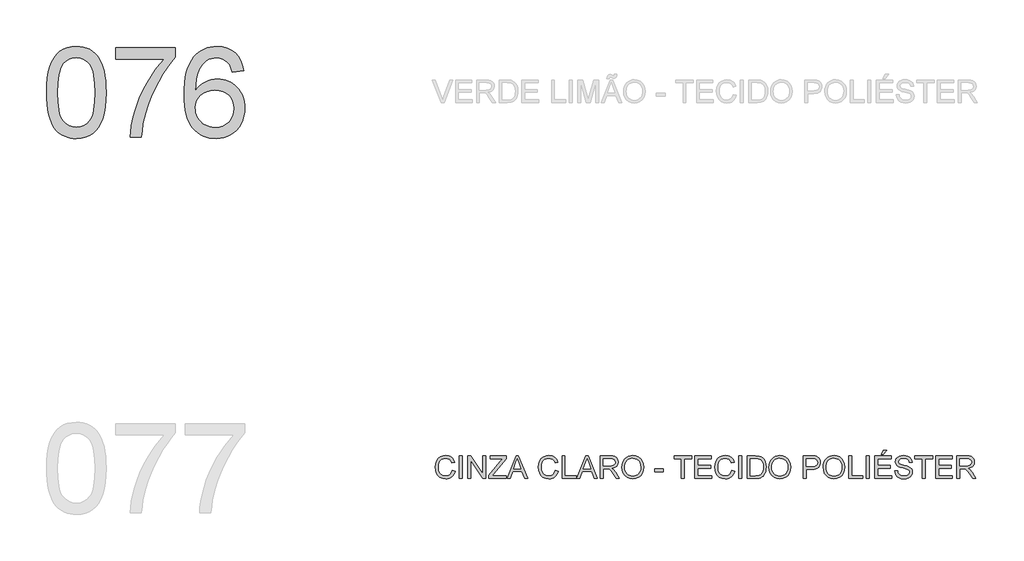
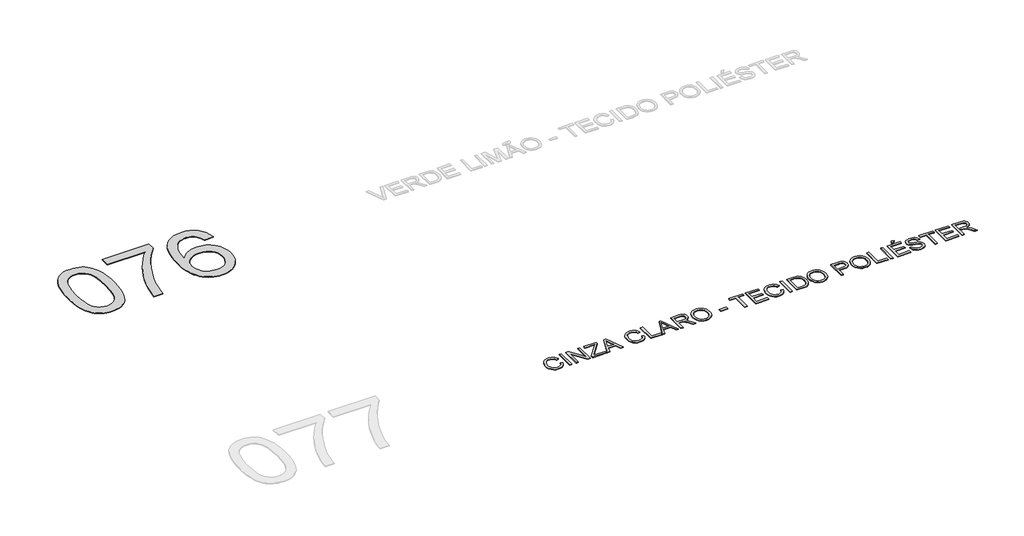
# One storey, part 6 of 35: 2 proxies.
"""IFC4 building model written with IfcOpenShell, lengths in millimetres."""

from ifc_helpers import new_model, si_unit, origin, origin_with_axes, place, context, project, spatial, polyline, outline, extrude, element, save

model = new_model("IFC4")

# Units and contexts
model_context = context("Model", 3, world=origin())
ifc_project = project(units=[si_unit("LENGTHUNIT", "METRE", prefix="MILLI")], contexts=[model_context])

# Site, building, storey
site = spatial("IfcSite", under=ifc_project)
building = spatial("IfcBuilding", under=site)
storey = spatial("IfcBuildingStorey", under=building, Name="Marelli - Linha YOU - Planta Baixa", Elevation=0.0)

# Proxies
placement = place(None, origin())
element("IfcBuildingElementProxy", 1, Name="1200mm Arial", ObjectType="1200mm Arial", at=placement, inside=storey, context=model_context, shape_type="SweptSolid", body=[
    extrude(outline(polyline([(-25181.1313792, -109895.792664), (-25178.3630672, -109794.4319773), (-25170.0581311, -109702.8385576), (-25156.2165711, -109621.0124048), (-25136.838387, -109548.953519), (-25112.0063523, -109486.073289), (-25081.8032405, -109431.7831035), (-25046.2290516, -109386.0829627), (-25005.2837855, -109348.9728664), (-24958.8294866, -109320.2596767), (-24906.728199, -109299.7502555), (-24848.9799228, -109287.4446027), (-24785.584658, -109283.3427185), (-24737.9439396, -109285.7707396), (-24692.7312424, -109293.0548031), (-24649.9465664, -109305.194909), (-24609.5899115, -109322.1910572), (-24572.6361651, -109343.7581391), (-24540.0602144, -109369.6110463), (-24511.8620595, -109399.7497788), (-24488.0417003, -109434.1743365), (-24467.4035204, -109472.7467637), (-24448.7519032, -109515.3291046), (-24417.4083572, -109612.5235278), (-24405.4337983, -109669.6831928), (-24396.8805419, -109735.9479371), (-24391.7485881, -109811.3177609), (-24390.0379368, -109895.792664), (-24392.7786576, -109996.5095573), (-24401.0008202, -110087.6431245), (-24414.7044246, -110169.1933658), (-24433.8894706, -110241.1602811), (-24458.5283672, -110304.0681023), (-24488.5935233, -110358.4410612), (-24524.0849388, -110404.2791578), (-24565.0026137, -110441.5823921), (-24611.5120949, -110470.4887199), (-24663.7789294, -110491.1360968), (-24721.8031171, -110503.524523), (-24785.584658, -110507.6539984), (-24828.2589694, -110505.8605737), (-24868.5788361, -110500.4802995), (-24906.544258, -110491.5131759), (-24942.1552351, -110478.9592028), (-24975.4117675, -110462.8183803), (-25006.3138551, -110443.0907083), (-25034.8614979, -110419.7761868), (-25061.054696, -110392.8748159), (-25089.1976686, -110350.2786794), (-25113.5882449, -110302.0999336), (-25134.2264248, -110248.3385785), (-25151.1122084, -110188.9946142), (-25164.2455956, -110124.0680406), (-25173.6265865, -110053.5588577), (-25179.255181, -109977.4670655), (-25181.1313792, -109895.792664)]), holes=[polyline([(-25030.446914, -109895.4983584), (-25026.03233, -110026.4919399), (-25012.7885782, -110132.5247279), (-25002.8557643, -110176.1808245), (-24990.7156585, -110213.5967226), (-24976.3682607, -110244.7724225), (-24959.8135709, -110269.7079239), (-24922.4367602, -110307.884878), (-24880.9396711, -110335.1541309), (-24835.3223037, -110351.5156826), (-24785.584658, -110356.9695332), (-24735.8470122, -110351.4972885), (-24690.2296448, -110335.0805545), (-24648.7325558, -110307.7193311), (-24611.3557451, -110269.4136183), (-24594.8010553, -110244.418336), (-24580.4536575, -110213.2104465), (-24568.3135516, -110175.7899498), (-24558.3807378, -110132.1568459), (-24545.1369859, -110026.2528166), (-24540.722402, -109895.4983584), (-24544.9898331, -109767.9720648), (-24557.7921266, -109663.8062779), (-24567.3938467, -109620.4835744), (-24579.1292823, -109583.0009976), (-24592.9984335, -109551.3585475), (-24609.0013003, -109525.5562241), (-24645.7527116, -109485.5122689), (-24687.7280473, -109456.9094438), (-24734.9273073, -109439.7477487), (-24787.3504916, -109434.0271837), (-24836.8306199, -109439.067167), (-24881.6754351, -109454.187117), (-24921.8849372, -109479.3870337), (-24957.4591261, -109514.666917), (-24974.5656389, -109543.2145599), (-24989.3912833, -109577.2068562), (-25001.9360594, -109616.6438061), (-25012.199967, -109661.5254095), (-25025.8851772, -109767.6225769), (-25030.446914, -109895.4983584)])]), origin_with_axes(), (0.0, 0.0, 1.0), 10.0),
    extrude(outline(polyline([(-24258.1890297, -109452.8627418), (-24258.1890297, -109302.1782766), (-23467.0955873, -109302.1782766), (-23467.0955873, -109424.0207934), (-23523.6114588, -109490.5246611), (-23579.8514188, -109566.7222194), (-23635.8154673, -109652.6134682), (-23691.5036043, -109748.1984076), (-23743.8991975, -109849.3383651), (-23789.9856144, -109951.8946683), (-23829.7628552, -110055.8673172), (-23863.2309197, -110161.2563118), (-23883.1701238, -110237.7941609), (-23899.1362024, -110317.9004653), (-23911.1291555, -110401.5752251), (-23919.1489829, -110488.8184403), (-24069.8334482, -110488.8184403), (-24065.0969675, -110414.8189769), (-24053.5362758, -110333.4986619), (-24035.1513731, -110244.8574952), (-24009.9422594, -110148.8954767), (-23978.2032402, -110050.1651463), (-23940.2286213, -109953.2190435), (-23896.0184025, -109858.0571684), (-23845.5725839, -109764.679521), (-23791.1628368, -109675.8268221), (-23735.0608326, -109594.2397926), (-23677.2665711, -109519.9184325), (-23617.7800525, -109452.8627418), (-24258.1890297, -109452.8627418)])), origin_with_axes(), (0.0, 0.0, 1.0), 10.0),
    extrude(outline(polyline([(-22562.9887959, -109603.5472071), (-22713.6732612, -109622.3827652), (-22724.7465092, -109582.0812927), (-22737.9534728, -109547.7027202), (-22753.294152, -109519.2470479), (-22770.7685468, -109496.7142757), (-22803.1605565, -109469.2886729), (-22839.1210215, -109449.6989567), (-22878.6499419, -109437.9451269), (-22921.7473176, -109434.0271837), (-22957.2847184, -109436.3080521), (-22991.7920495, -109443.1506572), (-23025.2693111, -109454.554999), (-23057.716503, -109470.5210776), (-23087.3218066, -109496.6315022), (-23114.3335421, -109528.1681863), (-23138.7517095, -109565.1311297), (-23160.5763089, -109607.5203326), (-23178.6485119, -109658.1316981), (-23191.8094903, -109719.7611293), (-23200.059244, -109792.4086263), (-23203.3977731, -109876.0741891), (-23174.6753864, -109838.2099347), (-23142.9547613, -109805.5512106), (-23108.235898, -109778.0980167), (-23070.5187965, -109755.8503531), (-23030.8151321, -109738.6610669), (-22990.1365805, -109726.3830053), (-22948.4831416, -109719.0161683), (-22905.8548154, -109716.560556), (-22868.9562513, -109718.2390176), (-22833.4556388, -109723.2744024), (-22799.3529778, -109731.6667104), (-22766.6482685, -109743.4159416), (-22735.3415107, -109758.5220961), (-22705.4327045, -109776.9851737), (-22676.9218498, -109798.8051745), (-22649.8089468, -109823.9820986), (-22625.04589, -109851.81697), (-22603.5845741, -109881.6108131), (-22585.4249991, -109913.3636278), (-22570.567165, -109947.0754142), (-22559.0110719, -109982.7461721), (-22550.7567196, -110020.3759017), (-22545.8041082, -110059.9646029), (-22544.1532378, -110101.5122757), (-22547.2618406, -110156.4462547), (-22556.5876492, -110209.4120649), (-22572.1306635, -110260.4097065), (-22593.8908835, -110309.4391794), (-22621.0957571, -110354.6702707), (-22652.9727319, -110394.2727675), (-22689.5218082, -110428.2466698), (-22730.7429857, -110456.5919775), (-22775.7533478, -110478.9316116), (-22823.6699777, -110494.8884932), (-22874.4928753, -110504.4626221), (-22928.2220407, -110507.6539984), (-22974.223385, -110505.5386769), (-23018.0496269, -110499.1927125), (-23059.7007666, -110488.6161052), (-23099.1768039, -110473.8088549), (-23136.4777389, -110454.7709616), (-23171.6035717, -110431.5024254), (-23204.5543022, -110404.0032463), (-23235.3299303, -110372.2734242), (-23263.1625025, -110335.6875598), (-23287.2840651, -110293.6202536), (-23307.694618, -110246.0715057), (-23324.3941613, -110193.0413161), (-23337.382695, -110134.5296848), (-23346.6602191, -110070.5366117), (-23352.2267335, -110001.062097), (-23354.0822384, -109926.1061404), (-23352.0220992, -109842.1784618), (-23345.8416817, -109764.1828803), (-23335.5409858, -109692.1193959), (-23321.1200116, -109625.9880088), (-23302.578759, -109565.7887188), (-23279.9172281, -109511.521526), (-23253.1354189, -109463.1864303), (-23222.2333313, -109420.7834319), (-23192.218759, -109388.5707647), (-23159.7117862, -109360.6531198), (-23124.7124129, -109337.0304971), (-23087.2206391, -109317.7028968), (-23047.2364647, -109302.6703188), (-23004.7598898, -109291.9327631), (-22959.7909145, -109285.4902296), (-22912.3295385, -109283.3427185), (-22842.9286002, -109288.6586133), (-22780.1127495, -109304.6062978), (-22723.8819865, -109331.1857719), (-22674.2363113, -109368.3970358), (-22632.518493, -109414.9892904), (-22600.071301, -109469.7117372), (-22576.8947353, -109532.5643761), (-22562.9887959, -109603.5472071)]), holes=[polyline([(-23203.3977731, -110099.157831), (-23201.2180723, -110132.9202011), (-23194.6789698, -110165.9284131), (-23183.7804657, -110198.182467), (-23168.52256, -110229.6823629), (-23149.6502136, -110258.9473756), (-23127.9083877, -110284.4967801), (-23103.2970822, -110306.3305766), (-23075.8162972, -110324.4487648), (-23045.6407766, -110338.676601), (-23012.9452642, -110348.8393411), (-22977.7297602, -110354.9369852), (-22939.9942646, -110356.9695332), (-22887.6170655, -110352.7572843), (-22840.5557613, -110340.1205378), (-22798.8103519, -110319.0592936), (-22762.3808373, -110289.5735517), (-22732.8307161, -110252.8589286), (-22711.7234866, -110210.1110407), (-22699.0591489, -110161.3298882), (-22694.837703, -110106.5154709), (-22699.0039666, -110053.8439662), (-22711.5027574, -110007.0769676), (-22732.3340754, -109966.214475), (-22761.4979205, -109931.2564884), (-22798.0377997, -109903.2514715), (-22840.9972197, -109883.247888), (-22890.3761805, -109871.2457379), (-22946.1746821, -109867.2450212), (-22997.8529054, -109871.2457379), (-23045.4660326, -109883.247888), (-23089.0140638, -109903.2514715), (-23128.4969989, -109931.2564884), (-23161.2660876, -109965.7546225), (-23184.6725796, -110005.2375576), (-23198.7164747, -110049.7052938), (-23203.3977731, -110099.157831)])]), origin_with_axes(), (0.0, 0.0, 1.0), 10.0),
])
element("IfcBuildingElementProxy", 2, Name="300mm Arial", ObjectType="300mm Arial", at=placement, inside=storey, context=model_context, shape_type="SweptSolid", body=[
    extrude(outline(polyline([(-19788.3594476, -114923.4390831), (-19750.6883313, -114933.1511677), (-19758.1425402, -114956.5783531), (-19768.0707555, -114977.0486868), (-19780.4729773, -114994.5621691), (-19795.3492055, -115009.1187997), (-19812.3637478, -115020.5622291), (-19831.1809118, -115028.7361071), (-19851.8006976, -115033.640434), (-19874.2231053, -115035.2752096), (-19917.9182892, -115030.3271968), (-19952.6187584, -115015.4831583), (-19979.2166267, -114991.2581289), (-19998.6040078, -114958.1671434), (-20010.440611, -114919.2636224), (-20014.3861454, -114877.6009865), (-20009.9255762, -114833.6574822), (-19996.5438686, -114795.7104543), (-19974.9399985, -114764.9647166), (-19945.8129415, -114742.6250824), (-19911.2688222, -114729.0226457), (-19873.4137649, -114724.4885001), (-19832.1098139, -114730.3562179), (-19814.1410777, -114737.6908652), (-19797.9611677, -114747.9593714), (-19783.8367983, -114760.8904235), (-19772.034684, -114776.2127086), (-19755.3972208, -114814.0309777), (-19793.0683371, -114823.0072984), (-19806.1281479, -114795.5357104), (-19823.9704247, -114776.6909552), (-19846.8158966, -114765.7924511), (-19874.8852928, -114762.1596164), (-19907.2405143, -114766.1879242), (-19933.8199885, -114778.2728478), (-19953.9891189, -114797.1451941), (-19967.113309, -114821.5357704), (-19974.3145991, -114849.1085259), (-19976.7150291, -114877.5274101), (-19973.8731407, -114912.3290468), (-19965.3474755, -114942.421794), (-19950.8161366, -114966.6560205), (-19929.9572275, -114983.8820949), (-19904.9504489, -114994.1735937), (-19877.9755016, -114997.6040933), (-19846.5307881, -114992.931992), (-19820.328393, -114978.9156879), (-19800.5455387, -114955.7023341), (-19788.3594476, -114923.4390831)])), origin_with_axes(), (0.0, 0.0, 1.0), 10.0),
    extrude(outline(polyline([(-19694.1816568, -115030.5663201), (-19694.1816568, -114729.1973896), (-19656.5105405, -114729.1973896), (-19656.5105405, -115030.5663201), (-19694.1816568, -115030.5663201)])), origin_with_axes(), (0.0, 0.0, 1.0), 10.0),
    extrude(outline(polyline([(-19581.1683079, -115030.5663201), (-19581.1683079, -114729.1973896), (-19540.8484412, -114729.1973896), (-19383.3949473, -114967.9528045), (-19383.3949473, -114729.1973896), (-19345.723831, -114729.1973896), (-19345.723831, -115030.5663201), (-19386.0436977, -115030.5663201), (-19543.4971916, -114791.7373288), (-19543.4971916, -115030.5663201), (-19581.1683079, -115030.5663201)])), origin_with_axes(), (0.0, 0.0, 1.0), 10.0),
    extrude(outline(polyline([(-19303.3438251, -115030.5663201), (-19303.3438251, -114991.4972522), (-19149.2012692, -114802.7737887), (-19119.9178623, -114766.8685059), (-19284.508267, -114766.8685059), (-19284.508267, -114729.1973896), (-19072.6082378, -114729.1973896), (-19072.6082378, -114766.8685059), (-19241.3189207, -114973.397458), (-19257.2114229, -114992.8952038), (-19067.8993482, -114992.8952038), (-19067.8993482, -115030.5663201), (-19303.3438251, -115030.5663201)])), origin_with_axes(), (0.0, 0.0, 1.0), 10.0),
    extrude(outline(polyline([(-19060.6152847, -115030.5663201), (-18940.3178723, -114729.1973896), (-18908.2385623, -114729.1973896), (-18787.9411499, -115030.5663201), (-18827.7459818, -115030.5663201), (-18862.2533129, -114936.3885293), (-18986.3766981, -114936.3885293), (-19020.8104528, -115030.5663201), (-19060.6152847, -115030.5663201)]), holes=[polyline([(-18972.5443351, -114898.717413), (-18876.0120995, -114898.717413), (-18903.1617908, -114824.6259792), (-18924.2782173, -114766.8685059), (-18943.0401991, -114818.1512561), (-18972.5443351, -114898.717413)])]), origin_with_axes(), (0.0, 0.0, 1.0), 10.0),
    extrude(outline(polyline([(-18418.0725919, -114923.4390831), (-18380.4014756, -114933.1511677), (-18387.8556846, -114956.5783531), (-18397.7838999, -114977.0486868), (-18410.1861217, -114994.5621691), (-18425.0623499, -115009.1187997), (-18442.0768921, -115020.5622291), (-18460.8940562, -115028.7361071), (-18481.513842, -115033.640434), (-18503.9362496, -115035.2752096), (-18547.6314336, -115030.3271968), (-18582.3319028, -115015.4831583), (-18608.929771, -114991.2581289), (-18628.3171522, -114958.1671434), (-18640.1537554, -114919.2636224), (-18644.0992898, -114877.6009865), (-18639.6387206, -114833.6574822), (-18626.257013, -114795.7104543), (-18604.6531428, -114764.9647166), (-18575.5260859, -114742.6250824), (-18540.9819665, -114729.0226457), (-18503.1269092, -114724.4885001), (-18461.8229582, -114730.3562179), (-18443.854222, -114737.6908652), (-18427.674312, -114747.9593714), (-18413.5499427, -114760.8904235), (-18401.7478284, -114776.2127086), (-18385.1103652, -114814.0309777), (-18422.7814815, -114823.0072984), (-18435.8412923, -114795.5357104), (-18453.6835691, -114776.6909552), (-18476.529041, -114765.7924511), (-18504.5984372, -114762.1596164), (-18536.9536587, -114766.1879242), (-18563.5331328, -114778.2728478), (-18583.7022632, -114797.1451941), (-18596.8264534, -114821.5357704), (-18604.0277435, -114849.1085259), (-18606.4281735, -114877.5274101), (-18603.5862851, -114912.3290468), (-18595.0606198, -114942.421794), (-18580.529281, -114966.6560205), (-18559.6703719, -114983.8820949), (-18534.6635933, -114994.1735937), (-18507.688646, -114997.6040933), (-18476.2439324, -114992.931992), (-18450.0415373, -114978.9156879), (-18430.258683, -114955.7023341), (-18418.0725919, -114923.4390831)])), origin_with_axes(), (0.0, 0.0, 1.0), 10.0),
    extrude(outline(polyline([(-18328.6036907, -115030.5663201), (-18328.6036907, -114729.1973896), (-18290.9325744, -114729.1973896), (-18290.9325744, -114992.8952038), (-18140.2481092, -114992.8952038), (-18140.2481092, -115030.5663201), (-18328.6036907, -115030.5663201)])), origin_with_axes(), (0.0, 0.0, 1.0), 10.0),
    extrude(outline(polyline([(-18132.9640457, -115030.5663201), (-18012.6666333, -114729.1973896), (-17980.5873233, -114729.1973896), (-17860.2899109, -115030.5663201), (-17900.0947427, -115030.5663201), (-17934.6020739, -114936.3885293), (-18058.7254591, -114936.3885293), (-18093.1592138, -115030.5663201), (-18132.9640457, -115030.5663201)]), holes=[polyline([(-18044.893096, -114898.717413), (-17948.3608605, -114898.717413), (-17975.5105517, -114824.6259792), (-17996.6269783, -114766.8685059), (-18015.38896, -114818.1512561), (-18044.893096, -114898.717413)])]), origin_with_axes(), (0.0, 0.0, 1.0), 10.0),
    extrude(outline(polyline([(-17820.0436206, -115030.5663201), (-17820.0436206, -114729.1973896), (-17690.1812763, -114729.1973896), (-17655.278472, -114731.2299376), (-17629.8854173, -114737.3275817), (-17611.3257706, -114748.5847708), (-17596.9231905, -114766.0959537), (-17587.6801554, -114787.8101885), (-17584.5991437, -114811.6765329), (-17589.7035064, -114841.3646099), (-17605.0165944, -114865.9759154), (-17616.6163736, -114876.0052983), (-17630.9982603, -114884.0205273), (-17668.1083566, -114894.0085235), (-17646.6976245, -114910.1217548), (-17616.1634189, -114948.8965171), (-17565.9107383, -115030.5663201), (-17609.6886957, -115030.5663201), (-17648.9049164, -114968.0999573), (-17677.2318301, -114926.750021), (-17697.134246, -114907.2154871), (-17715.0500992, -114900.0417882), (-17736.9022897, -114898.717413), (-17782.3725043, -114898.717413), (-17782.3725043, -115030.5663201), (-17820.0436206, -115030.5663201)]), holes=[polyline([(-17782.3725043, -114861.0462967), (-17698.053951, -114861.0462967), (-17673.8381186, -114859.7127245), (-17655.0485457, -114855.7120078), (-17640.903483, -114848.7774322), (-17630.6211813, -114838.6422832), (-17624.3579903, -114826.3826157), (-17622.27026, -114813.0744845), (-17626.2525826, -114794.6987789), (-17638.1995504, -114779.8915286), (-17658.7549568, -114770.1242616), (-17688.5625955, -114766.8685059), (-17782.3725043, -114766.8685059), (-17782.3725043, -114861.0462967)])]), origin_with_axes(), (0.0, 0.0, 1.0), 10.0),
    extrude(outline(polyline([(-17532.8013587, -114883.8549804), (-17530.2905641, -114848.5061192), (-17522.7581803, -114817.213157), (-17510.2042072, -114789.9760937), (-17492.6286449, -114766.7949295), (-17471.0845555, -114748.2858666), (-17446.6250014, -114735.0651074), (-17419.2499824, -114727.1326519), (-17388.9594986, -114724.4885001), (-17349.4305783, -114729.454907), (-17313.985148, -114744.3541278), (-17284.5545884, -114768.1376988), (-17263.0702799, -114799.7571563), (-17249.9368927, -114837.68579), (-17245.5590969, -114880.3968896), (-17250.1668189, -114923.6782064), (-17263.9899849, -114962.140269), (-17286.2652397, -114993.8149088), (-17316.2292282, -115016.7339571), (-17351.3711558, -115030.6398965), (-17389.1802278, -115035.2752096), (-17429.3161535, -115030.1524528), (-17464.9639188, -115014.7841825), (-17494.3209021, -114990.5591531), (-17515.5844814, -114958.8661192), (-17528.4971394, -114922.3998164), (-17532.8013587, -114883.8549804)]), holes=[polyline([(-17495.1302424, -114884.2228624), (-17493.2471465, -114909.1974513), (-17487.5978586, -114931.3669401), (-17478.1823788, -114950.7313286), (-17465.000707, -114967.2906169), (-17448.9771469, -114980.5527628), (-17431.0360018, -114990.0257242), (-17411.1772719, -114995.709501), (-17389.400957, -114997.6040933), (-17367.2521617, -114995.6911069), (-17347.1589069, -114989.9521478), (-17329.1211929, -114980.3872159), (-17313.1390194, -114966.9963113), (-17300.0539167, -114950.0875351), (-17290.7074148, -114929.9689885), (-17285.0995136, -114906.6406715), (-17283.2302132, -114880.102584), (-17286.4307866, -114846.7540812), (-17296.0325067, -114817.9305269), (-17311.7870531, -114794.358488), (-17333.4461056, -114776.7645316), (-17359.5749243, -114765.8108452), (-17388.7387694, -114762.1596164), (-17409.7586269, -114763.9185522), (-17429.2609712, -114769.1953595), (-17447.2458022, -114777.9900385), (-17463.7131201, -114790.302589), (-17477.4581111, -114806.7262208), (-17487.2759618, -114827.8541437), (-17493.1666723, -114853.6863575), (-17495.1302424, -114884.2228624)])]), origin_with_axes(), (0.0, 0.0, 1.0), 10.0),
    extrude(outline(polyline([(-17099.5835212, -114941.0974188), (-17099.5835212, -114903.4263025), (-16981.8612828, -114903.4263025), (-16981.8612828, -114941.0974188), (-17099.5835212, -114941.0974188)])), origin_with_axes(), (0.0, 0.0, 1.0), 10.0),
    extrude(outline(polyline([(-16741.7079163, -115030.5663201), (-16741.7079163, -114766.8685059), (-16840.5945966, -114766.8685059), (-16840.5945966, -114729.1973896), (-16605.1501197, -114729.1973896), (-16605.1501197, -114766.8685059), (-16704.0368, -114766.8685059), (-16704.0368, -115030.5663201), (-16741.7079163, -115030.5663201)])), origin_with_axes(), (0.0, 0.0, 1.0), 10.0),
    extrude(outline(polyline([(-16562.7701139, -115030.5663201), (-16562.7701139, -114729.1973896), (-16346.1611951, -114729.1973896), (-16346.1611951, -114766.8685059), (-16525.0989976, -114766.8685059), (-16525.0989976, -114856.3374072), (-16355.5789742, -114856.3374072), (-16355.5789742, -114894.0085235), (-16525.0989976, -114894.0085235), (-16525.0989976, -114992.8952038), (-16341.4523056, -114992.8952038), (-16341.4523056, -115030.5663201), (-16562.7701139, -115030.5663201)])), origin_with_axes(), (0.0, 0.0, 1.0), 10.0),
    extrude(outline(polyline([(-16073.0456019, -114923.4390831), (-16035.3744856, -114933.1511677), (-16042.8286945, -114956.5783531), (-16052.7569099, -114977.0486868), (-16065.1591316, -114994.5621691), (-16080.0353598, -115009.1187997), (-16097.0499021, -115020.5622291), (-16115.8670661, -115028.7361071), (-16136.486852, -115033.640434), (-16158.9092596, -115035.2752096), (-16202.6044435, -115030.3271968), (-16237.3049127, -115015.4831583), (-16263.902781, -114991.2581289), (-16283.2901621, -114958.1671434), (-16295.1267653, -114919.2636224), (-16299.0722997, -114877.6009865), (-16294.6117305, -114833.6574822), (-16281.230023, -114795.7104543), (-16259.6261528, -114764.9647166), (-16230.4990958, -114742.6250824), (-16195.9549765, -114729.0226457), (-16158.0999192, -114724.4885001), (-16116.7959682, -114730.3562179), (-16098.827232, -114737.6908652), (-16082.647322, -114747.9593714), (-16068.5229526, -114760.8904235), (-16056.7208384, -114776.2127086), (-16040.0833751, -114814.0309777), (-16077.7544914, -114823.0072984), (-16090.8143023, -114795.5357104), (-16108.656579, -114776.6909552), (-16131.5020509, -114765.7924511), (-16159.5714472, -114762.1596164), (-16191.9266686, -114766.1879242), (-16218.5061428, -114778.2728478), (-16238.6752732, -114797.1451941), (-16251.7994633, -114821.5357704), (-16259.0007534, -114849.1085259), (-16261.4011834, -114877.5274101), (-16258.559295, -114912.3290468), (-16250.0336298, -114942.421794), (-16235.502291, -114966.6560205), (-16214.6433818, -114983.8820949), (-16189.6366032, -114994.1735937), (-16162.6616559, -114997.6040933), (-16131.2169424, -114992.931992), (-16105.0145473, -114978.9156879), (-16085.231693, -114955.7023341), (-16073.0456019, -114923.4390831)])), origin_with_axes(), (0.0, 0.0, 1.0), 10.0),
    extrude(outline(polyline([(-15978.8678111, -115030.5663201), (-15978.8678111, -114729.1973896), (-15941.1966948, -114729.1973896), (-15941.1966948, -115030.5663201), (-15978.8678111, -115030.5663201)])), origin_with_axes(), (0.0, 0.0, 1.0), 10.0),
    extrude(outline(polyline([(-15865.8544622, -115030.5663201), (-15865.8544622, -114729.1973896), (-15761.8910104, -114729.1973896), (-15708.1066627, -114733.5383972), (-15684.0839684, -114741.9077126), (-15663.8136705, -114755.0962821), (-15642.9731554, -114778.0521186), (-15628.1291169, -114806.5997614), (-15619.2447667, -114840.1873876), (-15616.2833167, -114878.2631741), (-15618.2882735, -114910.6091985), (-15624.3031442, -114939.0740679), (-15633.4634059, -114963.3082943), (-15644.9045359, -114982.9623899), (-15658.0747113, -114998.477813), (-15672.4221091, -115010.2960221), (-15688.8940255, -115019.0608107), (-15708.4377565, -115025.4159721), (-15756.8878152, -115030.5663201), (-15865.8544622, -115030.5663201)]), holes=[polyline([(-15828.1833459, -114992.8952038), (-15761.5231284, -114992.8952038), (-15733.9503728, -114991.5340404), (-15713.0362814, -114987.4505502), (-15697.2541438, -114980.8838566), (-15685.0772498, -114972.0730828), (-15671.9898478, -114955.7667134), (-15662.1582015, -114934.6594839), (-15656.0053751, -114908.6594239), (-15653.954433, -114877.6745629), (-15657.9735438, -114836.6189322), (-15670.0308762, -114806.3054558), (-15687.8455618, -114785.4833349), (-15709.1367323, -114772.9017706), (-15730.8049818, -114768.3768221), (-15762.553198, -114766.8685059), (-15828.1833459, -114766.8685059), (-15828.1833459, -114992.8952038)])]), origin_with_axes(), (0.0, 0.0, 1.0), 10.0),
    extrude(outline(polyline([(-15578.6122004, -114883.8549804), (-15576.1014058, -114848.5061192), (-15568.5690219, -114817.213157), (-15556.0150488, -114789.9760937), (-15538.4394865, -114766.7949295), (-15516.8953972, -114748.2858666), (-15492.435843, -114735.0651074), (-15465.060824, -114727.1326519), (-15434.7703403, -114724.4885001), (-15395.2414199, -114729.454907), (-15359.7959896, -114744.3541278), (-15330.36543, -114768.1376988), (-15308.8811215, -114799.7571563), (-15295.7477343, -114837.68579), (-15291.3699385, -114880.3968896), (-15295.9776605, -114923.6782064), (-15309.8008265, -114962.140269), (-15332.0760813, -114993.8149088), (-15362.0400698, -115016.7339571), (-15397.1819974, -115030.6398965), (-15434.9910695, -115035.2752096), (-15475.1269951, -115030.1524528), (-15510.7747605, -115014.7841825), (-15540.1317437, -114990.5591531), (-15561.395323, -114958.8661192), (-15574.307981, -114922.3998164), (-15578.6122004, -114883.8549804)]), holes=[polyline([(-15540.9410841, -114884.2228624), (-15539.0579881, -114909.1974513), (-15533.4087002, -114931.3669401), (-15523.9932204, -114950.7313286), (-15510.8115487, -114967.2906169), (-15494.7879885, -114980.5527628), (-15476.8468435, -114990.0257242), (-15456.9881135, -114995.709501), (-15435.2117986, -114997.6040933), (-15413.0630033, -114995.6911069), (-15392.9697486, -114989.9521478), (-15374.9320345, -114980.3872159), (-15358.949861, -114966.9963113), (-15345.8647583, -114950.0875351), (-15336.5182564, -114929.9689885), (-15330.9103552, -114906.6406715), (-15329.0410548, -114880.102584), (-15332.2416282, -114846.7540812), (-15341.8433483, -114817.9305269), (-15357.5978947, -114794.358488), (-15379.2569472, -114776.7645316), (-15405.3857659, -114765.8108452), (-15434.5496111, -114762.1596164), (-15455.5694686, -114763.9185522), (-15475.0718128, -114769.1953595), (-15493.0566439, -114777.9900385), (-15509.5239617, -114790.302589), (-15523.2689527, -114806.7262208), (-15533.0868035, -114827.8541437), (-15538.9775139, -114853.6863575), (-15540.9410841, -114884.2228624)])]), origin_with_axes(), (0.0, 0.0, 1.0), 10.0),
    extrude(outline(polyline([(-15121.8499152, -115030.5663201), (-15121.8499152, -114729.1973896), (-15010.1609414, -114729.1973896), (-14965.1321852, -114732.0668692), (-14945.0550253, -114737.4287493), (-14928.5279267, -114746.1567496), (-14915.2197955, -114758.6463433), (-14904.799538, -114775.2930036), (-14898.0672975, -114794.9287051), (-14895.8232173, -114816.3854225), (-14897.3384313, -114834.8852883), (-14901.8840732, -114851.9044291), (-14909.460143, -114867.4428449), (-14920.0666408, -114881.5005356), (-14934.62787, -114893.1531978), (-14954.0681342, -114901.476528), (-14978.3874334, -114906.470526), (-15007.5857675, -114908.1351921), (-15084.1787989, -114908.1351921), (-15084.1787989, -115030.5663201), (-15121.8499152, -115030.5663201)]), holes=[polyline([(-15084.1787989, -114870.4640758), (-15005.3784755, -114870.4640758), (-14971.9747903, -114867.005985), (-14949.9018706, -114856.6317127), (-14937.5962179, -114839.9850525), (-14933.4943336, -114817.7097977), (-14935.9131577, -114800.7872259), (-14943.1696301, -114786.5134045), (-14954.3624398, -114775.7712502), (-14968.590276, -114769.4436799), (-15006.2613923, -114766.8685059), (-15084.1787989, -114766.8685059), (-15084.1787989, -114870.4640758)])]), origin_with_axes(), (0.0, 0.0, 1.0), 10.0),
    extrude(outline(polyline([(-14858.152101, -114883.8549804), (-14855.6413064, -114848.5061192), (-14848.1089225, -114817.213157), (-14835.5549495, -114789.9760937), (-14817.9793871, -114766.7949295), (-14796.4352978, -114748.2858666), (-14771.9757436, -114735.0651074), (-14744.6007247, -114727.1326519), (-14714.3102409, -114724.4885001), (-14674.7813205, -114729.454907), (-14639.3358903, -114744.3541278), (-14609.9053307, -114768.1376988), (-14588.4210222, -114799.7571563), (-14575.2876349, -114837.68579), (-14570.9098392, -114880.3968896), (-14575.5175612, -114923.6782064), (-14589.3407271, -114962.140269), (-14611.6159819, -114993.8149088), (-14641.5799705, -115016.7339571), (-14676.721898, -115030.6398965), (-14714.5309701, -115035.2752096), (-14754.6668958, -115030.1524528), (-14790.3146611, -115014.7841825), (-14819.6716443, -114990.5591531), (-14840.9352236, -114958.8661192), (-14853.8478817, -114922.3998164), (-14858.152101, -114883.8549804)]), holes=[polyline([(-14820.4809847, -114884.2228624), (-14818.5978887, -114909.1974513), (-14812.9486009, -114931.3669401), (-14803.533121, -114950.7313286), (-14790.3514493, -114967.2906169), (-14774.3278892, -114980.5527628), (-14756.3867441, -114990.0257242), (-14736.5280141, -114995.709501), (-14714.7516993, -114997.6040933), (-14692.6029039, -114995.6911069), (-14672.5096492, -114989.9521478), (-14654.4719351, -114980.3872159), (-14638.4897617, -114966.9963113), (-14625.404659, -114950.0875351), (-14616.058157, -114929.9689885), (-14610.4502559, -114906.6406715), (-14608.5809555, -114880.102584), (-14611.7815288, -114846.7540812), (-14621.3832489, -114817.9305269), (-14637.1377954, -114794.358488), (-14658.7968478, -114776.7645316), (-14684.9256665, -114765.8108452), (-14714.0895117, -114762.1596164), (-14735.1093692, -114763.9185522), (-14754.6117135, -114769.1953595), (-14772.5965445, -114777.9900385), (-14789.0638623, -114790.302589), (-14802.8088534, -114806.7262208), (-14812.6267041, -114827.8541437), (-14818.5174146, -114853.6863575), (-14820.4809847, -114884.2228624)])]), origin_with_axes(), (0.0, 0.0, 1.0), 10.0),
    extrude(outline(polyline([(-14519.1120543, -115030.5663201), (-14519.1120543, -114729.1973896), (-14481.440938, -114729.1973896), (-14481.440938, -114992.8952038), (-14330.7564727, -114992.8952038), (-14330.7564727, -115030.5663201), (-14519.1120543, -115030.5663201)])), origin_with_axes(), (0.0, 0.0, 1.0), 10.0),
    extrude(outline(polyline([(-14283.6675773, -115030.5663201), (-14283.6675773, -114729.1973896), (-14245.996461, -114729.1973896), (-14245.996461, -115030.5663201), (-14283.6675773, -115030.5663201)])), origin_with_axes(), (0.0, 0.0, 1.0), 10.0),
    extrude(outline(polyline([(-14170.6542284, -115030.5663201), (-14170.6542284, -114729.1973896), (-13954.0453097, -114729.1973896), (-13954.0453097, -114766.8685059), (-14132.9831121, -114766.8685059), (-14132.9831121, -114856.3374072), (-13963.4630887, -114856.3374072), (-13963.4630887, -114894.0085235), (-14132.9831121, -114894.0085235), (-14132.9831121, -114992.8952038), (-13949.3364201, -114992.8952038), (-13949.3364201, -115030.5663201), (-14170.6542284, -115030.5663201)])), origin_with_axes(), (0.0, 0.0, 1.0), 10.0),
    extrude(outline(polyline([(-14085.8942167, -114710.3618315), (-14057.6408795, -114653.855157), (-14010.5519841, -114653.855157), (-14057.6408795, -114710.3618315), (-14085.8942167, -114710.3618315)])), origin_with_axes(), (0.0, 0.0, 1.0), 10.0),
    extrude(outline(polyline([(-13906.9564143, -114926.9707502), (-13869.285298, -114926.9707502), (-13864.9626845, -114947.8756446), (-13857.1451921, -114964.6786547), (-13844.949904, -114978.0143771), (-13827.4939033, -114988.517408), (-13806.1567476, -114995.332422), (-13782.3179943, -114997.6040933), (-13761.3303265, -114995.884245), (-13742.9546208, -114990.7247), (-13728.0645971, -114982.5577197), (-13717.533975, -114971.8155654), (-13711.270784, -114959.4823216), (-13709.1830537, -114946.5420724), (-13710.7465522, -114933.932917), (-13715.4370476, -114923.0344129), (-13724.9651913, -114913.7361955), (-13741.0416345, -114905.9279001), (-13795.8928399, -114891.5437141), (-13831.8992902, -114882.0247675), (-13854.9379002, -114872.9656733), (-13873.6906849, -114860.2921386), (-13886.9804219, -114844.9330653), (-13894.8990819, -114827.2195472), (-13897.5386352, -114807.4826782), (-13894.2736825, -114785.4189555), (-13884.4788244, -114764.845155), (-13868.4115782, -114747.4075484), (-13846.3294615, -114734.7524077), (-13819.8235637, -114727.054477), (-13790.4849746, -114724.4885001), (-13758.6999702, -114727.1740386), (-13730.8880914, -114735.2306543), (-13708.0426195, -114748.4928003), (-13691.1568359, -114766.7949295), (-13680.469864, -114788.9966079), (-13676.2208269, -114813.9574013), (-13713.8919432, -114813.9574013), (-13720.8081247, -114791.4798114), (-13735.2290989, -114775.2562154), (-13757.7618711, -114765.4337661), (-13789.0134466, -114762.1596164), (-13821.0007861, -114765.3969779), (-13842.9449471, -114775.1090626), (-13855.636876, -114789.4012781), (-13859.8675189, -114806.3790322), (-13856.8692806, -114820.8551887), (-13847.8745659, -114832.4986539), (-13826.6109865, -114842.9097143), (-13786.3646963, -114853.541504), (-13744.830819, -114863.6398648), (-13719.7044787, -114872.4506385), (-13698.2293673, -114886.1174547), (-13683.247373, -114902.9848441), (-13674.4457963, -114922.868866), (-13671.5119374, -114945.5855792), (-13674.8872547, -114968.8081301), (-13685.0132066, -114990.6511236), (-13701.4759259, -115009.4498935), (-13723.8615453, -115023.539774), (-13750.7813103, -115032.3413507), (-13780.8464663, -115035.2752096), (-13817.7542275, -115032.1114244), (-13848.1320833, -115022.620069), (-13872.3295215, -115006.764355), (-13890.6960301, -114984.5074943), (-13902.486648, -114957.3945912), (-13906.9564143, -114926.9707502)])), origin_with_axes(), (0.0, 0.0, 1.0), 10.0),
    extrude(outline(polyline([(-13539.6630303, -115030.5663201), (-13539.6630303, -114766.8685059), (-13638.5497106, -114766.8685059), (-13638.5497106, -114729.1973896), (-13403.1052337, -114729.1973896), (-13403.1052337, -114766.8685059), (-13501.991914, -114766.8685059), (-13501.991914, -115030.5663201), (-13539.6630303, -115030.5663201)])), origin_with_axes(), (0.0, 0.0, 1.0), 10.0),
    extrude(outline(polyline([(-13360.7252278, -115030.5663201), (-13360.7252278, -114729.1973896), (-13144.1163091, -114729.1973896), (-13144.1163091, -114766.8685059), (-13323.0541115, -114766.8685059), (-13323.0541115, -114856.3374072), (-13153.5340882, -114856.3374072), (-13153.5340882, -114894.0085235), (-13323.0541115, -114894.0085235), (-13323.0541115, -114992.8952038), (-13139.4074195, -114992.8952038), (-13139.4074195, -115030.5663201), (-13360.7252278, -115030.5663201)])), origin_with_axes(), (0.0, 0.0, 1.0), 10.0),
    extrude(outline(polyline([(-13082.9007451, -115030.5663201), (-13082.9007451, -114729.1973896), (-12953.0384008, -114729.1973896), (-12918.1355965, -114731.2299376), (-12892.7425418, -114737.3275817), (-12874.1828951, -114748.5847708), (-12859.780315, -114766.0959537), (-12850.5372799, -114787.8101885), (-12847.4562682, -114811.6765329), (-12852.5606309, -114841.3646099), (-12867.8737189, -114865.9759154), (-12879.4734981, -114876.0052983), (-12893.8553848, -114884.0205273), (-12930.9654811, -114894.0085235), (-12909.554749, -114910.1217548), (-12879.0205434, -114948.8965171), (-12828.7678628, -115030.5663201), (-12872.5458202, -115030.5663201), (-12911.7620409, -114968.0999573), (-12940.0889546, -114926.750021), (-12959.9913705, -114907.2154871), (-12977.9072237, -114900.0417882), (-12999.7594142, -114898.717413), (-13045.2296288, -114898.717413), (-13045.2296288, -115030.5663201), (-13082.9007451, -115030.5663201)]), holes=[polyline([(-13045.2296288, -114861.0462967), (-12960.9110755, -114861.0462967), (-12936.6952432, -114859.7127245), (-12917.9056703, -114855.7120078), (-12903.7606075, -114848.7774322), (-12893.4783058, -114838.6422832), (-12887.2151148, -114826.3826157), (-12885.1273845, -114813.0744845), (-12889.1097071, -114794.6987789), (-12901.0566749, -114779.8915286), (-12921.6120814, -114770.1242616), (-12951.41972, -114766.8685059), (-13045.2296288, -114766.8685059), (-13045.2296288, -114861.0462967)])]), origin_with_axes(), (0.0, 0.0, 1.0), 10.0),
])

save(model, "model.ifc")
